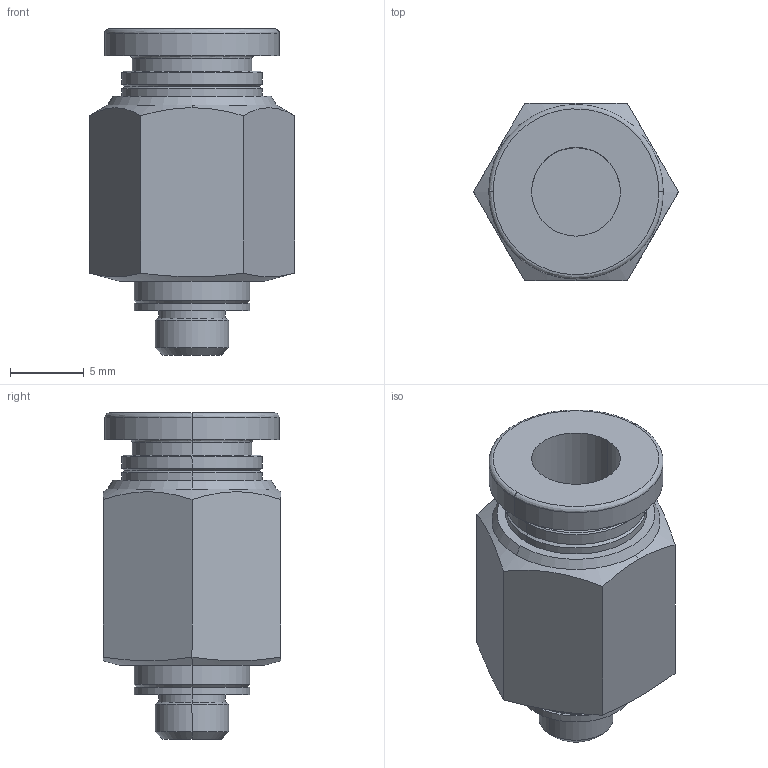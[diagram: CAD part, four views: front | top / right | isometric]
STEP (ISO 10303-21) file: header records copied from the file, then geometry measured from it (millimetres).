
FILE_DESCRIPTION (( 'STEP AP214' ), '1' );
FILE_NAME ('KQ2H06-M5A.STEP', '2023-03-06T10:17:38', ( 'Windows User' ), ( 'P R C' ), 'SwSTEP 2.0', 'SolidWorks 2019', '' );
FILE_SCHEMA (( 'AUTOMOTIVE_DESIGN' ));
Length unit declared in the file: millimetre
Products named in the file (1): KQ2H06-M5A
Bounding box: 13.86 x 12 x 22.05 mm (x, y, z)
Volume: 1566.8 mm3; surface area: 1409.6 mm2
Topology: 1 solids, 1 shells, 58 faces, 125 edges, 76 vertices
Faces by surface type: cone 21, cylinder 18, plane 15, bspline 4
Entity records: 1969 total; most frequent: CARTESIAN_POINT 672, DIRECTION 279, ORIENTED_EDGE 250, EDGE_CURVE 125, AXIS2_PLACEMENT_3D 117, VERTEX_POINT 76, EDGE_LOOP 65, CIRCLE 62
